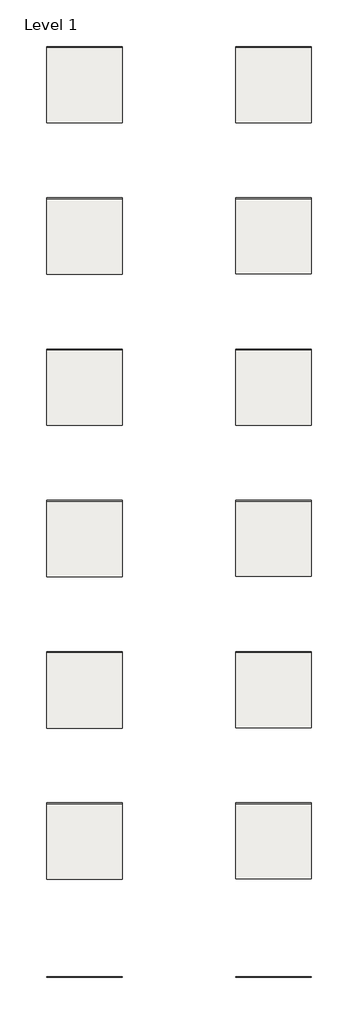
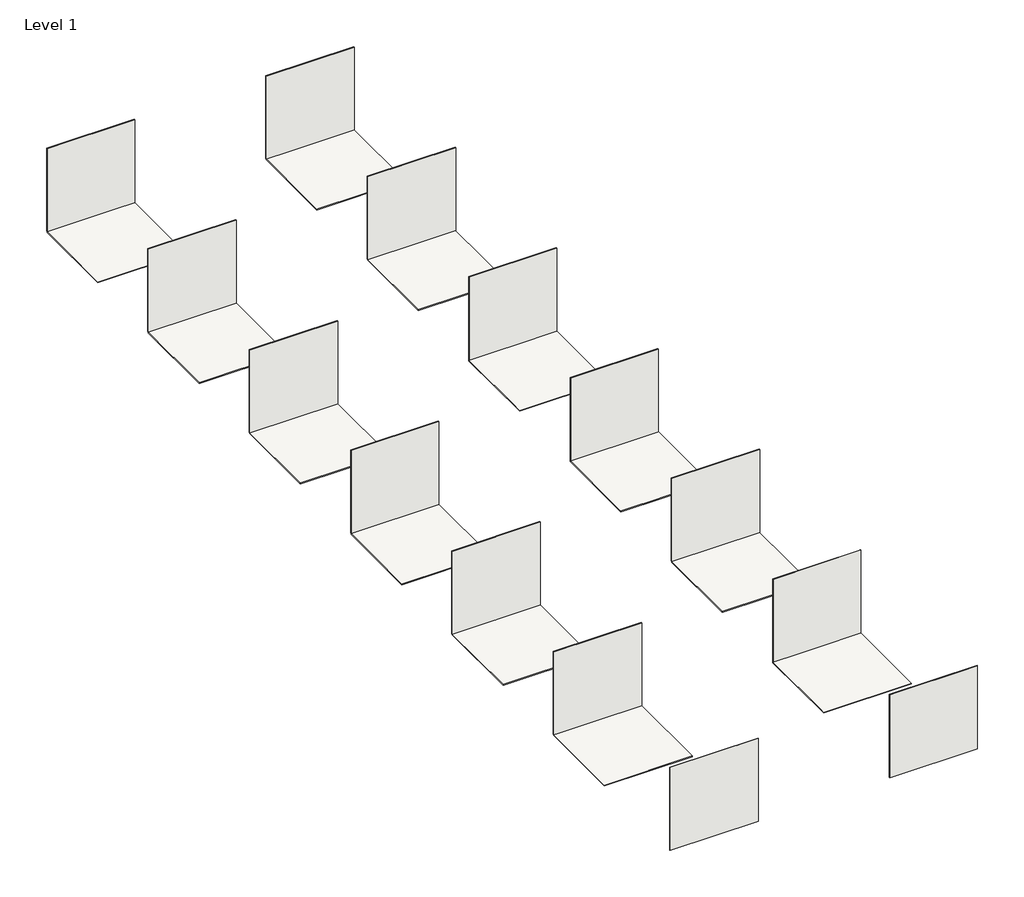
# One storey: 26 coverings.
"""IFC4 building model written with IfcOpenShell, lengths in millimetres."""

from ifc_helpers import new_model, si_unit, frame, origin, origin_with_axes, place, context, project, spatial, polyline, outline, extrude, element, save

model = new_model("IFC4")

# Units and contexts
model_context = context("Model", 3, world=origin())
ifc_project = project(units=[si_unit("LENGTHUNIT", "METRE", prefix="MILLI")], contexts=[model_context])

# Site, building, storey
site = spatial("IfcSite", under=ifc_project)
building = spatial("IfcBuilding", under=site)
storey = spatial("IfcBuildingStorey", under=building, Name="Level 1", Elevation=0.0)

# Coverings
placement = place(None, origin())
element("IfcCovering", 1, ObjectType="REVIGRES-CALACATTA_CLASSIC-BASE-29.5x59.2-MATTRECT-CLASSIC", at=placement, inside=storey, context=model_context, shape_type="SweptSolid", body=[
    extrude(outline(polyline([(618.7849182, -3198.0425025), (-381.2150818, -3198.0425025), (-381.2150818, -3188.2425025), (618.7849182, -3188.2425025), (618.7849182, -3198.0425025)])), origin_with_axes(), (0.0, 0.0, 1.0), 1000.0),
])
element("IfcCovering", 2, ObjectType="REVIGRES-CALACATTA_CLASSIC-BASE-29.5x59.2-POL-CLASSIC", at=placement, inside=storey, context=model_context, shape_type="SweptSolid", body=[
    extrude(outline(polyline([(3118.7849182, -3193.1425025), (3118.7849182, -4193.1425025), (2118.7849182, -4193.1425025), (2118.7849182, -3193.1425025), (3118.7849182, -3193.1425025)])), frame((0.0, 0.0, -9.8), z_axis=(0.0, 0.0, 1.0), x_axis=(1.0, 0.0, 0.0)), (0.0, 0.0, 1.0), 9.8),
])
element("IfcCovering", 3, ObjectType="REVIGRES-CALACATTA_CLASSIC-BASE-29.5x59.2-POL-CLASSIC", at=placement, inside=storey, context=model_context, shape_type="SweptSolid", body=[
    extrude(outline(polyline([(3118.7849182, -3198.0425025), (2118.7849182, -3198.0425025), (2118.7849182, -3188.2425025), (3118.7849182, -3188.2425025), (3118.7849182, -3198.0425025)])), origin_with_axes(), (0.0, 0.0, 1.0), 1000.0),
])
element("IfcCovering", 4, ObjectType="REVIGRES-CALACATTA_CLASSIC-BASE-29.5x59.2-MATTRECT-CLASSIC", at=placement, inside=storey, context=model_context, shape_type="SweptSolid", body=[
    extrude(outline(polyline([(618.7849182, -3198.0425025), (618.7849182, -4197.3925025), (-381.2150818, -4197.3925025), (-381.2150818, -3198.0425025), (618.7849182, -3198.0425025)])), frame((0.0, 0.0, -9.8), z_axis=(0.0, 0.0, 1.0), x_axis=(1.0, 0.0, 0.0)), (0.0, 0.0, 1.0), 9.8),
])
element("IfcCovering", 5, ObjectType="REVIGRES-CALACATTA_CLASSIC-BASE-59.2x59.2-MATTRECT-CLASSIC", at=placement, inside=storey, context=model_context, shape_type="SweptSolid", body=[
    extrude(outline(polyline([(618.7849182, -5198.0425025), (-381.2150818, -5198.0425025), (-381.2150818, -5188.2425025), (618.7849182, -5188.2425025), (618.7849182, -5198.0425025)])), origin_with_axes(), (0.0, 0.0, 1.0), 1000.0),
])
element("IfcCovering", 6, ObjectType="REVIGRES-CALACATTA_CLASSIC-BASE-59.2x59.2-POL-CLASSIC", at=placement, inside=storey, context=model_context, shape_type="SweptSolid", body=[
    extrude(outline(polyline([(3118.7849182, -5193.1425025), (3118.7849182, -6193.1425025), (2118.7849182, -6193.1425025), (2118.7849182, -5193.1425025), (3118.7849182, -5193.1425025)])), frame((0.0, 0.0, -9.8), z_axis=(0.0, 0.0, 1.0), x_axis=(1.0, 0.0, 0.0)), (0.0, 0.0, 1.0), 9.8),
])
element("IfcCovering", 7, ObjectType="REVIGRES-CALACATTA_CLASSIC-BASE-59.2x59.2-POL-CLASSIC", at=placement, inside=storey, context=model_context, shape_type="SweptSolid", body=[
    extrude(outline(polyline([(3118.7849182, -5198.0425025), (2118.7849182, -5198.0425025), (2118.7849182, -5188.2425025), (3118.7849182, -5188.2425025), (3118.7849182, -5198.0425025)])), origin_with_axes(), (0.0, 0.0, 1.0), 1000.0),
])
element("IfcCovering", 8, ObjectType="REVIGRES-CALACATTA_CLASSIC-BASE-59.2x59.2-MATTRECT-CLASSIC", at=placement, inside=storey, context=model_context, shape_type="SweptSolid", body=[
    extrude(outline(polyline([(618.7849182, -5198.0425025), (618.7849182, -6197.3925025), (-381.2150818, -6197.3925025), (-381.2150818, -5198.0425025), (618.7849182, -5198.0425025)])), frame((0.0, 0.0, -9.8), z_axis=(0.0, 0.0, 1.0), x_axis=(1.0, 0.0, 0.0)), (0.0, 0.0, 1.0), 9.8),
])
element("IfcCovering", 9, ObjectType="REVIGRES-CALACATTA_CLASSIC-BASE-44.35x88.9-MATTRECT-CLASSIC", at=placement, inside=storey, context=model_context, shape_type="SweptSolid", body=[
    extrude(outline(polyline([(618.7849182, -9198.3925025), (-381.2150818, -9198.3925025), (-381.2150818, -9187.8925025), (618.7849182, -9187.8925025), (618.7849182, -9198.3925025)])), origin_with_axes(), (0.0, 0.0, 1.0), 1000.0),
])
element("IfcCovering", 10, ObjectType="REVIGRES-CALACATTA_CLASSIC-BASE-44.35x88.9-POL-CLASSIC", at=placement, inside=storey, context=model_context, shape_type="SweptSolid", body=[
    extrude(outline(polyline([(3118.7849182, -9193.1425025), (3118.7849182, -10193.1425025), (2118.7849182, -10193.1425025), (2118.7849182, -9193.1425025), (3118.7849182, -9193.1425025)])), frame((0.0, 0.0, -10.5), z_axis=(0.0, 0.0, 1.0), x_axis=(1.0, 0.0, 0.0)), (0.0, 0.0, 1.0), 10.5),
])
element("IfcCovering", 11, ObjectType="REVIGRES-CALACATTA_CLASSIC-BASE-44.35x88.9-POL-CLASSIC", at=placement, inside=storey, context=model_context, shape_type="SweptSolid", body=[
    extrude(outline(polyline([(3118.7849182, -9198.3925025), (2118.7849182, -9198.3925025), (2118.7849182, -9187.8925025), (3118.7849182, -9187.8925025), (3118.7849182, -9198.3925025)])), origin_with_axes(), (0.0, 0.0, 1.0), 1000.0),
])
element("IfcCovering", 12, ObjectType="REVIGRES-CALACATTA_CLASSIC-BASE-44.35x88.9-MATTRECT-CLASSIC", at=placement, inside=storey, context=model_context, shape_type="SweptSolid", body=[
    extrude(outline(polyline([(618.7849182, -9198.3925025), (618.7849182, -10197.3925025), (-381.2150818, -10197.3925025), (-381.2150818, -9198.3925025), (618.7849182, -9198.3925025)])), frame((0.0, 0.0, -10.5), z_axis=(0.0, 0.0, 1.0), x_axis=(1.0, 0.0, 0.0)), (0.0, 0.0, 1.0), 10.5),
])
element("IfcCovering", 13, ObjectType="REVIGRES-CALACATTA_CLASSIC-BASE-88.9x88.9-MATTRECT-CLASSIC", at=placement, inside=storey, context=model_context, shape_type="SweptSolid", body=[
    extrude(outline(polyline([(618.7849182, -11198.3925025), (-381.2150818, -11198.3925025), (-381.2150818, -11187.8925025), (618.7849182, -11187.8925025), (618.7849182, -11198.3925025)])), origin_with_axes(), (0.0, 0.0, 1.0), 1000.0),
])
element("IfcCovering", 14, ObjectType="REVIGRES-CALACATTA_CLASSIC-BASE-88.9x88.9-POL-CLASSIC", at=placement, inside=storey, context=model_context, shape_type="SweptSolid", body=[
    extrude(outline(polyline([(3118.7849182, -11193.1425025), (3118.7849182, -12193.1425025), (2118.7849182, -12193.1425025), (2118.7849182, -11193.1425025), (3118.7849182, -11193.1425025)])), frame((0.0, 0.0, -10.5), z_axis=(0.0, 0.0, 1.0), x_axis=(1.0, 0.0, 0.0)), (0.0, 0.0, 1.0), 10.5),
])
element("IfcCovering", 15, ObjectType="REVIGRES-CALACATTA_CLASSIC-BASE-88.9x88.9-POL-CLASSIC", at=placement, inside=storey, context=model_context, shape_type="SweptSolid", body=[
    extrude(outline(polyline([(3118.7849182, -11198.3925025), (2118.7849182, -11198.3925025), (2118.7849182, -11187.8925025), (3118.7849182, -11187.8925025), (3118.7849182, -11198.3925025)])), origin_with_axes(), (0.0, 0.0, 1.0), 1000.0),
])
element("IfcCovering", 16, ObjectType="REVIGRES-CALACATTA_CLASSIC-BASE-88.9x88.9-MATTRECT-CLASSIC", at=placement, inside=storey, context=model_context, shape_type="SweptSolid", body=[
    extrude(outline(polyline([(618.7849182, -11198.3925025), (618.7849182, -12198.0425025), (-381.2150818, -12198.0425025), (-381.2150818, -11198.3925025), (618.7849182, -11198.3925025)])), frame((0.0, 0.0, -10.5), z_axis=(0.0, 0.0, 1.0), x_axis=(1.0, 0.0, 0.0)), (0.0, 0.0, 1.0), 10.5),
])
element("IfcCovering", 17, ObjectType="REVIGRES-CALACATTA_CLASSIC-BASE-59.2x118.6-MATTRECT-CLASSIC", at=placement, inside=storey, context=model_context, shape_type="SweptSolid", body=[
    extrude(outline(polyline([(618.7849182, -7198.0425025), (-381.2150818, -7198.0425025), (-381.2150818, -7188.2425025), (618.7849182, -7188.2425025), (618.7849182, -7198.0425025)])), origin_with_axes(), (0.0, 0.0, 1.0), 1000.0),
])
element("IfcCovering", 18, ObjectType="REVIGRES-CALACATTA_CLASSIC-BASE-59.2x118.6-POL-CLASSIC", at=placement, inside=storey, context=model_context, shape_type="SweptSolid", body=[
    extrude(outline(polyline([(3118.7849182, -7193.1425025), (3118.7849182, -8193.1425025), (2118.7849182, -8193.1425025), (2118.7849182, -7193.1425025), (3118.7849182, -7193.1425025)])), frame((0.0, 0.0, -9.8), z_axis=(0.0, 0.0, 1.0), x_axis=(1.0, 0.0, 0.0)), (0.0, 0.0, 1.0), 9.8),
])
element("IfcCovering", 19, ObjectType="REVIGRES-CALACATTA_CLASSIC-BASE-59.2x118.6-POL-CLASSIC", at=placement, inside=storey, context=model_context, shape_type="SweptSolid", body=[
    extrude(outline(polyline([(3118.7849182, -7198.0425025), (2118.7849182, -7198.0425025), (2118.7849182, -7188.2425025), (3118.7849182, -7188.2425025), (3118.7849182, -7198.0425025)])), origin_with_axes(), (0.0, 0.0, 1.0), 1000.0),
])
element("IfcCovering", 20, ObjectType="REVIGRES-CALACATTA_CLASSIC-BASE-59.2x118.6-MATTRECT-CLASSIC", at=placement, inside=storey, context=model_context, shape_type="SweptSolid", body=[
    extrude(outline(polyline([(618.7849182, -7198.0425025), (618.7849182, -8197.3925025), (-381.2150818, -8197.3925025), (-381.2150818, -7198.0425025), (618.7849182, -7198.0425025)])), frame((0.0, 0.0, -9.8), z_axis=(0.0, 0.0, 1.0), x_axis=(1.0, 0.0, 0.0)), (0.0, 0.0, 1.0), 9.8),
])
element("IfcCovering", 21, ObjectType="REVIGRES-CALACATTA_CLASSIC-BASE-118.6x118.6-MATTRECT-CLASSIC", at=placement, inside=storey, context=model_context, shape_type="SweptSolid", body=[
    extrude(outline(polyline([(618.7849182, -13197.6425025), (-381.2150818, -13197.6425025), (-381.2150818, -13188.6425025), (618.7849182, -13188.6425025), (618.7849182, -13197.6425025)])), origin_with_axes(), (0.0, 0.0, 1.0), 1000.0),
])
element("IfcCovering", 22, ObjectType="REVIGRES-CALACATTA_CLASSIC-BASE-118.6x118.6-POL-CLASSIC", at=placement, inside=storey, context=model_context, shape_type="SweptSolid", body=[
    extrude(outline(polyline([(3118.7849182, -13193.1425025), (3118.7849182, -14193.1425025), (2118.7849182, -14193.1425025), (2118.7849182, -13193.1425025), (3118.7849182, -13193.1425025)])), frame((0.0, 0.0, -9.0), z_axis=(0.0, 0.0, 1.0), x_axis=(1.0, 0.0, 0.0)), (0.0, 0.0, 1.0), 9.0),
])
element("IfcCovering", 23, ObjectType="REVIGRES-CALACATTA_CLASSIC-BASE-118.6x118.6-POL-CLASSIC", at=placement, inside=storey, context=model_context, shape_type="SweptSolid", body=[
    extrude(outline(polyline([(3118.7849182, -13197.6425025), (2118.7849182, -13197.6425025), (2118.7849182, -13188.6425025), (3118.7849182, -13188.6425025), (3118.7849182, -13197.6425025)])), origin_with_axes(), (0.0, 0.0, 1.0), 1000.0),
])
element("IfcCovering", 24, ObjectType="REVIGRES-CALACATTA_CLASSIC-BASE-118.6x118.6-MATTRECT-CLASSIC", at=placement, inside=storey, context=model_context, shape_type="SweptSolid", body=[
    extrude(outline(polyline([(618.7849182, -13197.6425025), (618.7849182, -14197.6425025), (-381.2150818, -14197.6425025), (-381.2150818, -13197.6425025), (618.7849182, -13197.6425025)])), frame((0.0, 0.0, -9.0), z_axis=(0.0, 0.0, 1.0), x_axis=(1.0, 0.0, 0.0)), (0.0, 0.0, 1.0), 9.0),
])
element("IfcCovering", 25, ObjectType="REVIGRES-CALACATTA_CLASSIC-BASE-118.6x277.8-MATTRECT-CLASSIC", at=placement, inside=storey, context=model_context, shape_type="SweptSolid", body=[
    extrude(outline(polyline([(618.7849182, -15496.1425025), (-381.2150818, -15496.1425025), (-381.2150818, -15490.1425025), (618.7849182, -15490.1425025), (618.7849182, -15496.1425025)])), origin_with_axes(), (0.0, 0.0, 1.0), 1000.0),
])
element("IfcCovering", 26, ObjectType="REVIGRES-CALACATTA_CLASSIC-BASE-118.6x277.8-POL-CLASSIC", at=placement, inside=storey, context=model_context, shape_type="SweptSolid", body=[
    extrude(outline(polyline([(3118.7849182, -15496.1425025), (2118.7849182, -15496.1425025), (2118.7849182, -15490.1425025), (3118.7849182, -15490.1425025), (3118.7849182, -15496.1425025)])), origin_with_axes(), (0.0, 0.0, 1.0), 1000.0),
])

save(model, "model.ifc")
